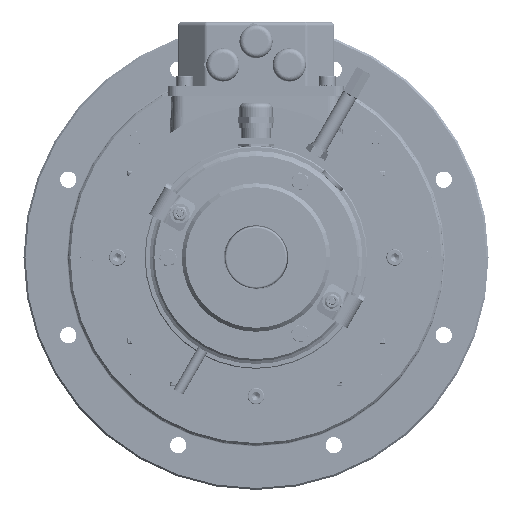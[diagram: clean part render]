
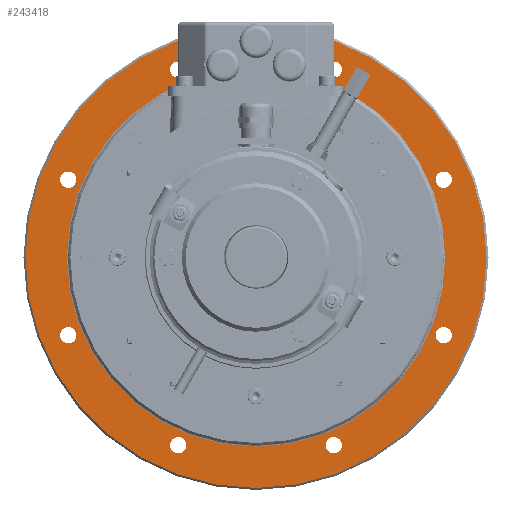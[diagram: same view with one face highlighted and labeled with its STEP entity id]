
A CAD part, left-side view. The second image highlights one B-rep face of the part: STEP entity #243418.
In plain terms, the highlighted planar face has unit normal (-1, 0, 0).
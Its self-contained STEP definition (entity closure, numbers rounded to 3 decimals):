
#44377=FACE_BOUND('',#77970,.T.);
#44378=FACE_BOUND('',#77971,.T.);
#44379=FACE_BOUND('',#77972,.T.);
#44380=FACE_BOUND('',#77973,.T.);
#44381=FACE_BOUND('',#77974,.T.);
#44382=FACE_BOUND('',#77975,.T.);
#44383=FACE_BOUND('',#77976,.T.);
#44384=FACE_BOUND('',#77977,.T.);
#44385=FACE_BOUND('',#77978,.T.);
#50295=PLANE('',#266381);
#63578=FACE_OUTER_BOUND('',#77969,.T.);
#77969=EDGE_LOOP('',(#205478));
#77970=EDGE_LOOP('',(#205479));
#77971=EDGE_LOOP('',(#205480));
#77972=EDGE_LOOP('',(#205481));
#77973=EDGE_LOOP('',(#205482));
#77974=EDGE_LOOP('',(#205483));
#77975=EDGE_LOOP('',(#205484));
#77976=EDGE_LOOP('',(#205485));
#77977=EDGE_LOOP('',(#205486));
#77978=EDGE_LOOP('',(#205487));
#92776=CIRCLE('',#266377,96.8);
#92779=CIRCLE('',#266382,118.);
#92780=CIRCLE('',#266383,4.188);
#92781=CIRCLE('',#266384,4.188);
#92782=CIRCLE('',#266385,4.188);
#92783=CIRCLE('',#266386,4.188);
#92784=CIRCLE('',#266387,4.188);
#92785=CIRCLE('',#266388,4.188);
#92786=CIRCLE('',#266389,4.188);
#92787=CIRCLE('',#266390,4.188);
#111939=VERTEX_POINT('',#496983);
#111942=VERTEX_POINT('',#496993);
#111943=VERTEX_POINT('',#496995);
#111944=VERTEX_POINT('',#496997);
#111945=VERTEX_POINT('',#496999);
#111946=VERTEX_POINT('',#497001);
#111947=VERTEX_POINT('',#497003);
#111948=VERTEX_POINT('',#497005);
#111949=VERTEX_POINT('',#497007);
#111950=VERTEX_POINT('',#497009);
#144004=EDGE_CURVE('',#111939,#111939,#92776,.T.);
#144008=EDGE_CURVE('',#111942,#111942,#92779,.T.);
#144009=EDGE_CURVE('',#111943,#111943,#92780,.T.);
#144010=EDGE_CURVE('',#111944,#111944,#92781,.T.);
#144011=EDGE_CURVE('',#111945,#111945,#92782,.T.);
#144012=EDGE_CURVE('',#111946,#111946,#92783,.T.);
#144013=EDGE_CURVE('',#111947,#111947,#92784,.T.);
#144014=EDGE_CURVE('',#111948,#111948,#92785,.T.);
#144015=EDGE_CURVE('',#111949,#111949,#92786,.T.);
#144016=EDGE_CURVE('',#111950,#111950,#92787,.T.);
#205478=ORIENTED_EDGE('',*,*,#144008,.F.);
#205479=ORIENTED_EDGE('',*,*,#144009,.T.);
#205480=ORIENTED_EDGE('',*,*,#144010,.T.);
#205481=ORIENTED_EDGE('',*,*,#144011,.T.);
#205482=ORIENTED_EDGE('',*,*,#144012,.T.);
#205483=ORIENTED_EDGE('',*,*,#144013,.T.);
#205484=ORIENTED_EDGE('',*,*,#144014,.T.);
#205485=ORIENTED_EDGE('',*,*,#144015,.T.);
#205486=ORIENTED_EDGE('',*,*,#144016,.T.);
#205487=ORIENTED_EDGE('',*,*,#144004,.F.);
#243418=ADVANCED_FACE('',(#63578,#44377,#44378,#44379,#44380,#44381,#44382,
#44383,#44384,#44385),#50295,.T.);
#266377=AXIS2_PLACEMENT_3D('',#496985,#325344,#325345);
#266381=AXIS2_PLACEMENT_3D('',#496992,#325353,#325354);
#266382=AXIS2_PLACEMENT_3D('',#496994,#325355,#325356);
#266383=AXIS2_PLACEMENT_3D('',#496996,#325357,#325358);
#266384=AXIS2_PLACEMENT_3D('',#496998,#325359,#325360);
#266385=AXIS2_PLACEMENT_3D('',#497000,#325361,#325362);
#266386=AXIS2_PLACEMENT_3D('',#497002,#325363,#325364);
#266387=AXIS2_PLACEMENT_3D('',#497004,#325365,#325366);
#266388=AXIS2_PLACEMENT_3D('',#497006,#325367,#325368);
#266389=AXIS2_PLACEMENT_3D('',#497008,#325369,#325370);
#266390=AXIS2_PLACEMENT_3D('',#497010,#325371,#325372);
#325344=DIRECTION('center_axis',(-1.,0.,0.));
#325345=DIRECTION('ref_axis',(0.,0.,
-1.));
#325353=DIRECTION('center_axis',(-1.,0.,0.));
#325354=DIRECTION('ref_axis',(0.,0.,
-1.));
#325355=DIRECTION('center_axis',(1.,0.,0.));
#325356=DIRECTION('ref_axis',(0.,0.,
-1.));
#325357=DIRECTION('center_axis',(1.,0.,0.));
#325358=DIRECTION('ref_axis',(0.,-1.,0.));
#325359=DIRECTION('center_axis',(1.,0.,0.));
#325360=DIRECTION('ref_axis',(0.,-0.707,
-0.707));
#325361=DIRECTION('center_axis',(1.,0.,0.));
#325362=DIRECTION('ref_axis',(0.,0.,
-1.));
#325363=DIRECTION('center_axis',(1.,0.,0.));
#325364=DIRECTION('ref_axis',(0.,0.707,-0.707));
#325365=DIRECTION('center_axis',(1.,0.,0.));
#325366=DIRECTION('ref_axis',(0.,1.,0.));
#325367=DIRECTION('center_axis',(1.,0.,0.));
#325368=DIRECTION('ref_axis',(0.,0.707,0.707));
#325369=DIRECTION('center_axis',(1.,0.,0.));
#325370=DIRECTION('ref_axis',(0.,0.,
1.));
#325371=DIRECTION('center_axis',(1.,0.,0.));
#325372=DIRECTION('ref_axis',(0.,-0.707,0.707));
#496983=CARTESIAN_POINT('',(69.1,0.,-96.8));
#496985=CARTESIAN_POINT('Origin',(69.1,0.,0.));
#496992=CARTESIAN_POINT('Origin',(69.1,0.,
107.5));
#496993=CARTESIAN_POINT('',(69.1,0.,118.));
#496994=CARTESIAN_POINT('Origin',(69.1,0.,0.));
#496995=CARTESIAN_POINT('',(69.1,43.987,96.083));
#496996=CARTESIAN_POINT('Origin',(69.1,39.799,96.083));
#496997=CARTESIAN_POINT('',(69.1,-36.838,99.045));
#496998=CARTESIAN_POINT('Origin',(69.1,-39.799,96.083));
#496999=CARTESIAN_POINT('',(69.1,-96.083,43.987));
#497000=CARTESIAN_POINT('Origin',(69.1,-96.083,39.799));
#497001=CARTESIAN_POINT('',(69.1,-99.045,-36.838));
#497002=CARTESIAN_POINT('Origin',(69.1,-96.083,-39.799));
#497003=CARTESIAN_POINT('',(69.1,-43.987,-96.083));
#497004=CARTESIAN_POINT('Origin',(69.1,-39.799,-96.083));
#497005=CARTESIAN_POINT('',(69.1,36.838,-99.045));
#497006=CARTESIAN_POINT('Origin',(69.1,39.799,-96.083));
#497007=CARTESIAN_POINT('',(69.1,96.083,-43.987));
#497008=CARTESIAN_POINT('Origin',(69.1,96.083,-39.799));
#497009=CARTESIAN_POINT('',(69.1,99.045,36.838));
#497010=CARTESIAN_POINT('Origin',(69.1,96.083,39.799));
